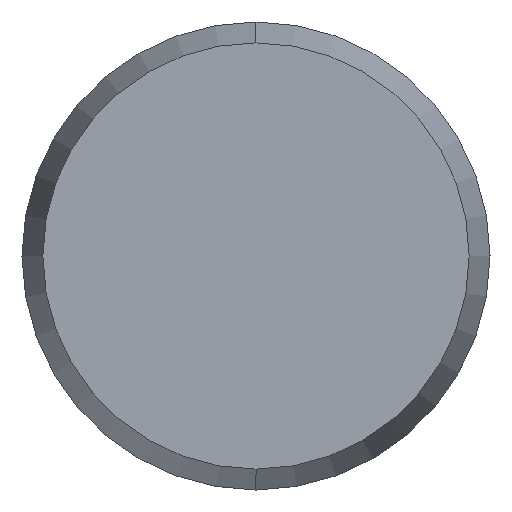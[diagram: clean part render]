
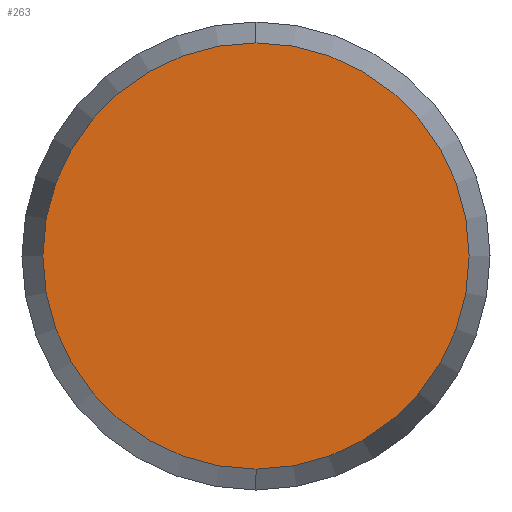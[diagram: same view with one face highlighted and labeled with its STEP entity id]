
A CAD part, left-side view. The second image highlights one B-rep face of the part: STEP entity #263.
In plain terms, the highlighted planar face has unit normal (-1, 0, 0).
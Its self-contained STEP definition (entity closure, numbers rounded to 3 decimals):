
#52 = EDGE_CURVE ( 'NONE', #53, #54, #193, .T. ) ;
#53 = VERTEX_POINT ( 'NONE', #188 ) ;
#54 = VERTEX_POINT ( 'NONE', #187 ) ;
#86 = DIRECTION ( 'NONE',  ( 0., 0., -1. ) ) ;
#87 = DIRECTION ( 'NONE',  ( 1., 0., 0. ) ) ;
#88 = CARTESIAN_POINT ( 'NONE',  ( -7., 0., 0. ) ) ;
#89 = AXIS2_PLACEMENT_3D ( 'NONE', #88, #87, #86 ) ;
#165 = DIRECTION ( 'NONE',  ( 0., 0., -1. ) ) ;
#166 = DIRECTION ( 'NONE',  ( 1., 0., 0. ) ) ;
#167 = CARTESIAN_POINT ( 'NONE',  ( -7., 0., 0. ) ) ;
#168 = AXIS2_PLACEMENT_3D ( 'NONE', #167, #166, #165 ) ;
#169 = PLANE ( 'NONE',  #168 ) ;
#170 = CIRCLE ( 'NONE', #89, 2.732 ) ;
#171 = FACE_OUTER_BOUND ( 'NONE', #264, .T. ) ;
#187 = CARTESIAN_POINT ( 'NONE',  ( -7., 0., -2.732 ) ) ;
#188 = CARTESIAN_POINT ( 'NONE',  ( -7., 0., 2.732 ) ) ;
#189 = DIRECTION ( 'NONE',  ( 0., 0., -1. ) ) ;
#190 = DIRECTION ( 'NONE',  ( 1., 0., 0. ) ) ;
#191 = CARTESIAN_POINT ( 'NONE',  ( -7., 0., 0. ) ) ;
#192 = AXIS2_PLACEMENT_3D ( 'NONE', #191, #190, #189 ) ;
#193 = CIRCLE ( 'NONE', #192, 2.732 ) ;
#259 = ORIENTED_EDGE ( 'NONE', *, *, #266, .F. ) ;
#263 = ADVANCED_FACE ( 'NONE', ( #171 ), #169, .F. ) ;
#264 = EDGE_LOOP ( 'NONE', ( #265, #259 ) ) ;
#265 = ORIENTED_EDGE ( 'NONE', *, *, #52, .F. ) ;
#266 = EDGE_CURVE ( 'NONE', #54, #53, #170, .T. ) ;
